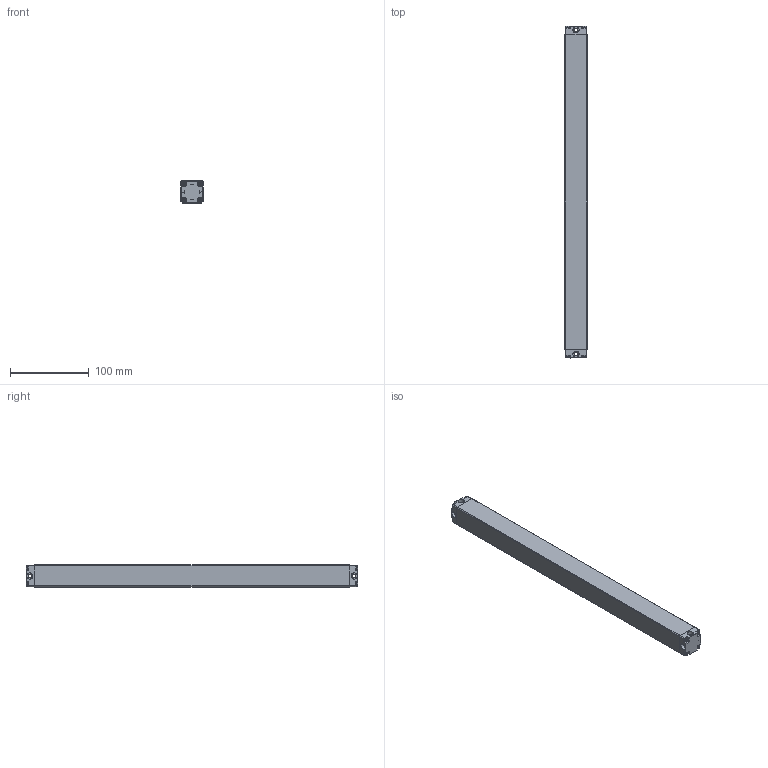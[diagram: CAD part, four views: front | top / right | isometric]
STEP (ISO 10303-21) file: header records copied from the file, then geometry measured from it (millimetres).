
FILE_DESCRIPTION((''),'2;1');
FILE_NAME('ELD00_ASM','2021-07-20T09:24:42',('18720616900'),(''),'CREO PARAMETRIC BY PTC INC, 2019010','CREO PARAMETRIC BY PTC INC, 2019010','');
FILE_SCHEMA(('CONFIG_CONTROL_DESIGN'));
Length unit declared in the file: millimetre
Products named in the file (6): ELD--00; ELD--000; ST-3-12; ELD00_ASM
Assembly tree (12 placements, depth 2):
  ELD00_ASM
    ELD--00
    ELD--000
    ELD--000
    ELD--000
    ST-3-12  x8
Bounding box: 28 x 422 x 28 mm (x, y, z)
Volume: 326611.9 mm3; surface area: 73345.5 mm2
Topology: 12 solids, 12 shells, 792 faces, 2082 edges, 1296 vertices
Faces by surface type: plane 236, cone 172, bspline 168, cylinder 156, torus 44, sphere 16
Entity records: 14414 total; most frequent: CARTESIAN_POINT 6863, ORIENTED_EDGE 1584, DIRECTION 1469, EDGE_CURVE 792, AXIS2_PLACEMENT_3D 520, VERTEX_POINT 491, VECTOR 429, LINE 429
